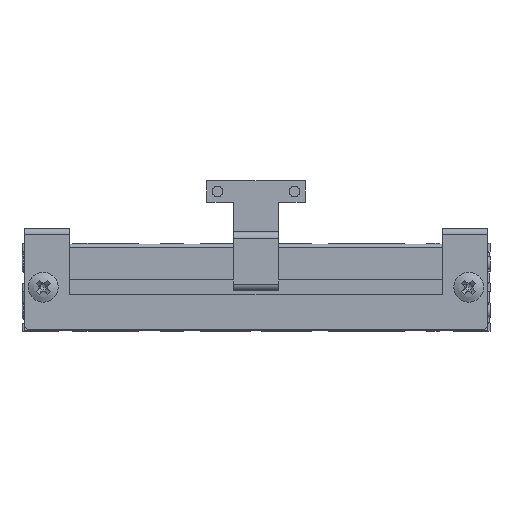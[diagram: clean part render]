
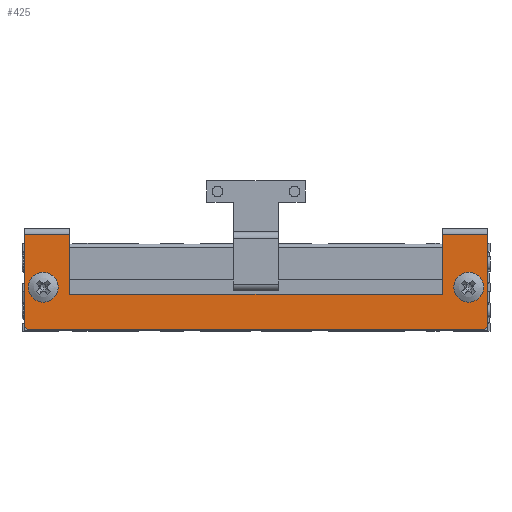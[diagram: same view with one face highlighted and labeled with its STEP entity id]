
A CAD part, front view. The second image highlights one B-rep face of the part: STEP entity #425.
In plain terms, the highlighted planar face has unit normal (0, -1, 0).
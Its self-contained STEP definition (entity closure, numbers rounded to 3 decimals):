
#101 = VERTEX_POINT('',#102);
#102 = CARTESIAN_POINT('',(-35.,-4.5,-1.));
#109 = EDGE_CURVE('',#110,#101,#112,.T.);
#110 = VERTEX_POINT('',#111);
#111 = CARTESIAN_POINT('',(-35.,-4.5,-12.35));
#112 = LINE('',#113,#114);
#113 = CARTESIAN_POINT('',(-35.,-4.5,-11.175));
#114 = VECTOR('',#115,1.);
#115 = DIRECTION('',(0.,0.,1.));
#404 = EDGE_CURVE('',#101,#405,#407,.T.);
#405 = VERTEX_POINT('',#406);
#406 = CARTESIAN_POINT('',(-43.5,-4.5,-1.));
#407 = LINE('',#408,#409);
#408 = CARTESIAN_POINT('',(43.5,-4.5,-1.));
#409 = VECTOR('',#410,1.);
#410 = DIRECTION('',(-1.,0.,0.));
#425 = ADVANCED_FACE('',(#426,#494,#505),#516,.T.);
#426 = FACE_BOUND('',#427,.T.);
#427 = EDGE_LOOP('',(#428,#436,#445,#453,#462,#470,#478,#486,#492,#493)
  );
#428 = ORIENTED_EDGE('',*,*,#429,.T.);
#429 = EDGE_CURVE('',#405,#430,#432,.T.);
#430 = VERTEX_POINT('',#431);
#431 = CARTESIAN_POINT('',(-43.5,-4.5,-18.));
#432 = LINE('',#433,#434);
#433 = CARTESIAN_POINT('',(-43.5,-4.5,-1.));
#434 = VECTOR('',#435,1.);
#435 = DIRECTION('',(0.,0.,-1.));
#436 = ORIENTED_EDGE('',*,*,#437,.T.);
#437 = EDGE_CURVE('',#430,#438,#440,.T.);
#438 = VERTEX_POINT('',#439);
#439 = CARTESIAN_POINT('',(-42.5,-4.5,-19.));
#440 = CIRCLE('',#441,1.);
#441 = AXIS2_PLACEMENT_3D('',#442,#443,#444);
#442 = CARTESIAN_POINT('',(-42.5,-4.5,-18.));
#443 = DIRECTION('',(0.,-1.,0.));
#444 = DIRECTION('',(0.,0.,1.));
#445 = ORIENTED_EDGE('',*,*,#446,.T.);
#446 = EDGE_CURVE('',#438,#447,#449,.T.);
#447 = VERTEX_POINT('',#448);
#448 = CARTESIAN_POINT('',(42.5,-4.5,-19.));
#449 = LINE('',#450,#451);
#450 = CARTESIAN_POINT('',(-43.5,-4.5,-19.));
#451 = VECTOR('',#452,1.);
#452 = DIRECTION('',(1.,0.,0.));
#453 = ORIENTED_EDGE('',*,*,#454,.T.);
#454 = EDGE_CURVE('',#447,#455,#457,.T.);
#455 = VERTEX_POINT('',#456);
#456 = CARTESIAN_POINT('',(43.5,-4.5,-18.));
#457 = CIRCLE('',#458,1.);
#458 = AXIS2_PLACEMENT_3D('',#459,#460,#461);
#459 = CARTESIAN_POINT('',(42.5,-4.5,-18.));
#460 = DIRECTION('',(0.,-1.,0.));
#461 = DIRECTION('',(0.,0.,1.));
#462 = ORIENTED_EDGE('',*,*,#463,.T.);
#463 = EDGE_CURVE('',#455,#464,#466,.T.);
#464 = VERTEX_POINT('',#465);
#465 = CARTESIAN_POINT('',(43.5,-4.5,-1.));
#466 = LINE('',#467,#468);
#467 = CARTESIAN_POINT('',(43.5,-4.5,-19.));
#468 = VECTOR('',#469,1.);
#469 = DIRECTION('',(0.,0.,1.));
#470 = ORIENTED_EDGE('',*,*,#471,.T.);
#471 = EDGE_CURVE('',#464,#472,#474,.T.);
#472 = VERTEX_POINT('',#473);
#473 = CARTESIAN_POINT('',(35.,-4.5,-1.));
#474 = LINE('',#475,#476);
#475 = CARTESIAN_POINT('',(43.5,-4.5,-1.));
#476 = VECTOR('',#477,1.);
#477 = DIRECTION('',(-1.,0.,0.));
#478 = ORIENTED_EDGE('',*,*,#479,.F.);
#479 = EDGE_CURVE('',#480,#472,#482,.T.);
#480 = VERTEX_POINT('',#481);
#481 = CARTESIAN_POINT('',(35.,-4.5,-12.35));
#482 = LINE('',#483,#484);
#483 = CARTESIAN_POINT('',(35.,-4.5,-11.175));
#484 = VECTOR('',#485,1.);
#485 = DIRECTION('',(0.,0.,1.));
#486 = ORIENTED_EDGE('',*,*,#487,.T.);
#487 = EDGE_CURVE('',#480,#110,#488,.T.);
#488 = LINE('',#489,#490);
#489 = CARTESIAN_POINT('',(-17.5,-4.5,-12.35));
#490 = VECTOR('',#491,1.);
#491 = DIRECTION('',(-1.,0.,0.));
#492 = ORIENTED_EDGE('',*,*,#109,.T.);
#493 = ORIENTED_EDGE('',*,*,#404,.T.);
#494 = FACE_BOUND('',#495,.T.);
#495 = EDGE_LOOP('',(#496));
#496 = ORIENTED_EDGE('',*,*,#497,.T.);
#497 = EDGE_CURVE('',#498,#498,#500,.T.);
#498 = VERTEX_POINT('',#499);
#499 = CARTESIAN_POINT('',(-37.2,-4.5,-11.));
#500 = CIRCLE('',#501,2.8);
#501 = AXIS2_PLACEMENT_3D('',#502,#503,#504);
#502 = CARTESIAN_POINT('',(-40.,-4.5,-11.));
#503 = DIRECTION('',(-0.,1.,0.));
#504 = DIRECTION('',(1.,0.,0.));
#505 = FACE_BOUND('',#506,.T.);
#506 = EDGE_LOOP('',(#507));
#507 = ORIENTED_EDGE('',*,*,#508,.T.);
#508 = EDGE_CURVE('',#509,#509,#511,.T.);
#509 = VERTEX_POINT('',#510);
#510 = CARTESIAN_POINT('',(42.8,-4.5,-11.));
#511 = CIRCLE('',#512,2.8);
#512 = AXIS2_PLACEMENT_3D('',#513,#514,#515);
#513 = CARTESIAN_POINT('',(40.,-4.5,-11.));
#514 = DIRECTION('',(-0.,1.,0.));
#515 = DIRECTION('',(1.,0.,0.));
#516 = PLANE('',#517);
#517 = AXIS2_PLACEMENT_3D('',#518,#519,#520);
#518 = CARTESIAN_POINT('',(0.,-4.5,-10.));
#519 = DIRECTION('',(0.,-1.,0.));
#520 = DIRECTION('',(1.,0.,0.));
